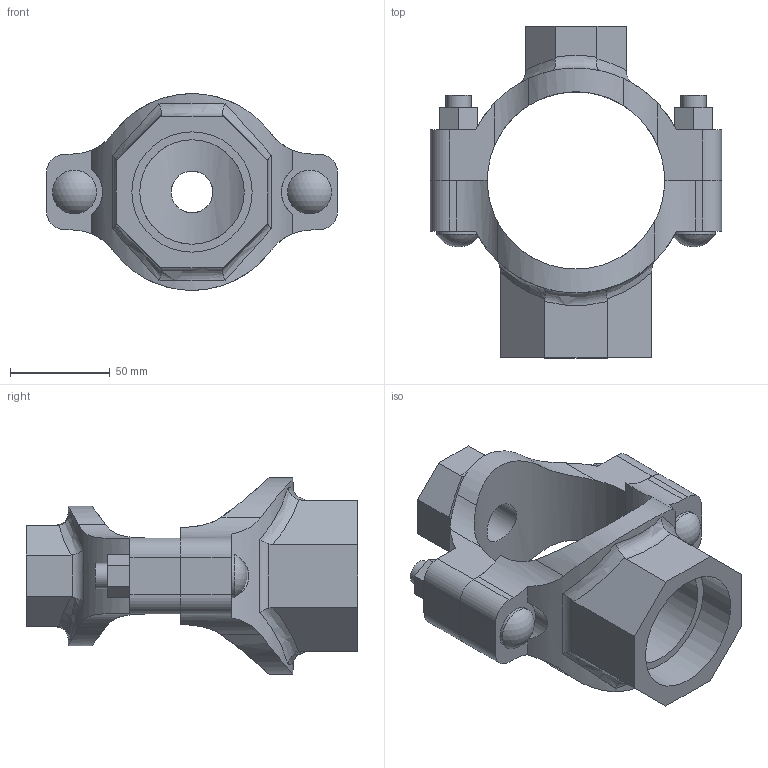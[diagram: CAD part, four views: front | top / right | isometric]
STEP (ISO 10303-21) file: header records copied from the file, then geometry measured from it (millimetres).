
FILE_DESCRIPTION(/* description */ ('VIC MECH-T BRANCH OUTLET CROSS STYLE 920N (THD)','CAx-IF Rec.Pracs.---Representation and Presentation of Product Manufacturing Information (PMI)---4.0---2014-10-13'),/* implementation_level */ '2;1');
FILE_NAME(/* name */ 'C:\Users\Vjadhav\AppData\Roaming\Autodesk\ApplicationPlugins\Back Up\Victaulic_IPS_Mechanical-Cross Outlet_Style 920N (FPT)\Victaulic_IPS_Mechanical-Cross Outlet_03.0x0.75x02.0 (80x20x50).stp',/* time_stamp */ '2020-08-06T18:57:25+05:00',/* author */ ('Vjadhav'),/* organization */ ('Victaulic'),/* preprocessor_version */ 'ST-DEVELOPER v17.2',/* originating_system */ 'Autodesk Inventor 2019',/* authorisation */ '');
FILE_SCHEMA (('AP242_MANAGED_MODEL_BASED_3D_ENGINEERING_MIM_LF { 1 0 10303 442 1 1 4 }'));
Length unit declared in the file: inch
Products named in the file (3): 920NT-03.0x0.75x02.0; 920NT-03.0x0.75; 920NT-03.0x02.0
Assembly tree (2 placements, depth 2):
  920NT-03.0x0.75x02.0
    920NT-03.0x0.75
    920NT-03.0x02.0
Bounding box: 146.05 x 166.37 x 98.5 mm (x, y, z)
Volume: 383155.1 mm3; surface area: 87085.4 mm2
Topology: 2 solids, 2 shells, 132 faces, 350 edges, 236 vertices
Faces by surface type: plane 68, cylinder 50, bspline 8, torus 4, sphere 2
Full cylindrical faces by diameter (mm): 12.7 x4, 20.93 x1, 21.982 x2, 26.67 x1, 52.387 x1, 60.325 x1
Entity records: 5136 total; most frequent: CARTESIAN_POINT 1623, ORIENTED_EDGE 700, DIRECTION 648, EDGE_CURVE 350, VERTEX_POINT 236, AXIS2_PLACEMENT_3D 231, LINE 186, VECTOR 186
